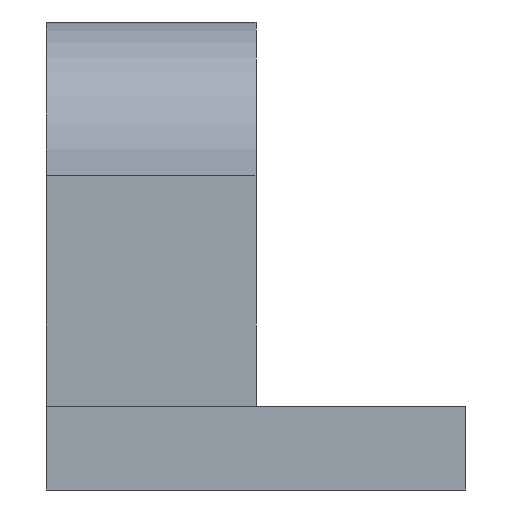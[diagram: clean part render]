
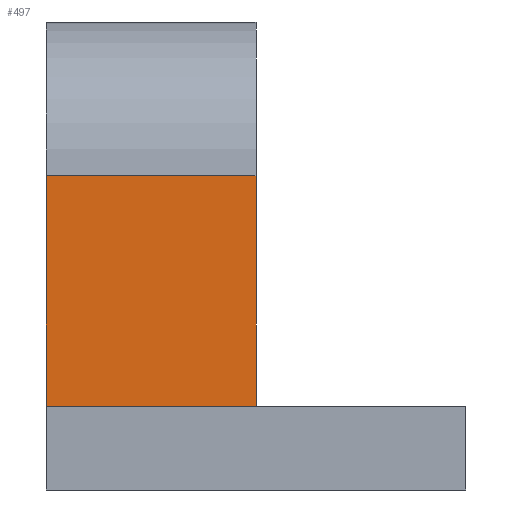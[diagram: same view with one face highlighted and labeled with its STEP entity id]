
A CAD part, left-side view. The second image highlights one B-rep face of the part: STEP entity #497.
In plain terms, the highlighted planar face has unit normal (-1, 0, 0).
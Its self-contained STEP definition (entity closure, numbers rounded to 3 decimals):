
#290 = VERTEX_POINT('',#291);
#291 = CARTESIAN_POINT('',(-120.,0.,45.));
#298 = EDGE_CURVE('',#290,#299,#301,.T.);
#299 = VERTEX_POINT('',#300);
#300 = CARTESIAN_POINT('',(-120.,0.,12.));
#301 = LINE('',#302,#303);
#302 = CARTESIAN_POINT('',(-120.,0.,45.));
#303 = VECTOR('',#304,1.);
#304 = DIRECTION('',(0.,0.,-1.));
#323 = VERTEX_POINT('',#324);
#324 = CARTESIAN_POINT('',(-120.,30.,12.));
#330 = EDGE_CURVE('',#323,#331,#333,.T.);
#331 = VERTEX_POINT('',#332);
#332 = CARTESIAN_POINT('',(-120.,30.,45.));
#333 = LINE('',#334,#335);
#334 = CARTESIAN_POINT('',(-120.,30.,12.));
#335 = VECTOR('',#336,1.);
#336 = DIRECTION('',(0.,0.,1.));
#487 = EDGE_CURVE('',#331,#290,#488,.T.);
#488 = LINE('',#489,#490);
#489 = CARTESIAN_POINT('',(-120.,0.,45.));
#490 = VECTOR('',#491,1.);
#491 = DIRECTION('',(0.,-1.,0.));
#497 = ADVANCED_FACE('',(#498),#509,.T.);
#498 = FACE_BOUND('',#499,.T.);
#499 = EDGE_LOOP('',(#500,#501,#502,#503));
#500 = ORIENTED_EDGE('',*,*,#298,.F.);
#501 = ORIENTED_EDGE('',*,*,#487,.F.);
#502 = ORIENTED_EDGE('',*,*,#330,.F.);
#503 = ORIENTED_EDGE('',*,*,#504,.T.);
#504 = EDGE_CURVE('',#323,#299,#505,.T.);
#505 = LINE('',#506,#507);
#506 = CARTESIAN_POINT('',(-120.,0.,12.));
#507 = VECTOR('',#508,1.);
#508 = DIRECTION('',(0.,-1.,0.));
#509 = PLANE('',#510);
#510 = AXIS2_PLACEMENT_3D('',#511,#512,#513);
#511 = CARTESIAN_POINT('',(-120.,0.,45.));
#512 = DIRECTION('',(-1.,0.,0.));
#513 = DIRECTION('',(0.,1.,0.));
